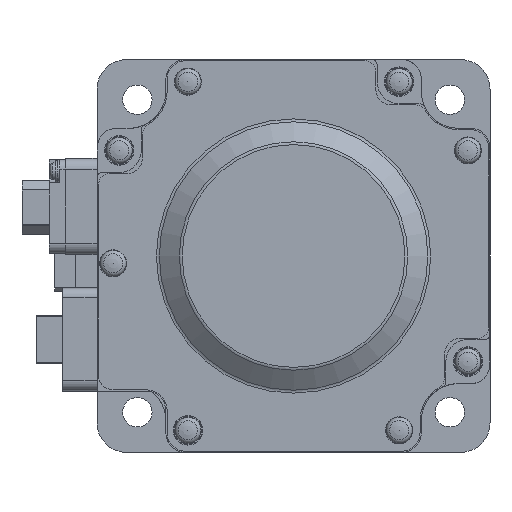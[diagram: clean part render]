
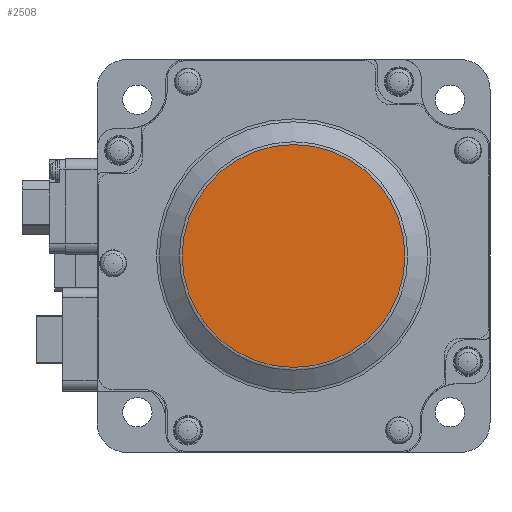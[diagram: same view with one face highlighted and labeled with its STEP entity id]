
A CAD part, left-side view. The second image highlights one B-rep face of the part: STEP entity #2508.
In plain terms, the highlighted planar face has unit normal (-1, 0, 0).
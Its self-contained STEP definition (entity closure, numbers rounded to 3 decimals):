
#2508 = ADVANCED_FACE( '', ( #5256 ), #5257, .F. );
#5256 = FACE_OUTER_BOUND( '', #8161, .T. );
#5257 = PLANE( '', #8162 );
#8161 = EDGE_LOOP( '', ( #15484 ) );
#8162 = AXIS2_PLACEMENT_3D( '', #15485, #15486, #15487 );
#15484 = ORIENTED_EDGE( '', *, *, #17254, .F. );
#15485 = CARTESIAN_POINT( '', ( -163.2, 34., 34. ) );
#15486 = DIRECTION( '', ( 1., 0., 0. ) );
#15487 = DIRECTION( '', ( 0., 0., -1. ) );
#17254 = EDGE_CURVE( '', #21169, #21169, #21170, .T. );
#21169 = VERTEX_POINT( '', #26366 );
#21170 = CIRCLE( '', #26367, 22.678 );
#26366 = CARTESIAN_POINT( '', ( -163.2, 0., -22.678 ) );
#26367 = AXIS2_PLACEMENT_3D( '', #30766, #30767, #30768 );
#30766 = CARTESIAN_POINT( '', ( -163.2, 0., 0. ) );
#30767 = DIRECTION( '', ( 1., 0., 0. ) );
#30768 = DIRECTION( '', ( 0., 0., -1. ) );
